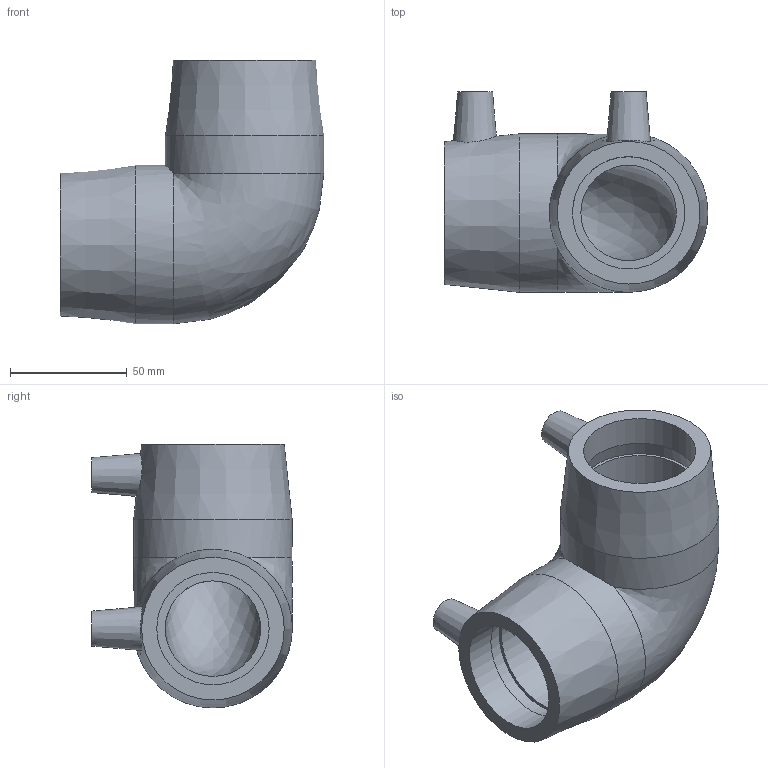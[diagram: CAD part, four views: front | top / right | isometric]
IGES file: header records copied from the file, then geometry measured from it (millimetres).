
Global section: file name: 5905B003015.ipt; native system: Autodesk Inventor 2019; preprocessor: unknown; author: KIM; date: 20210830.100957; units: inch
Bounding box: 112.86 x 85.72 x 112.86 mm (x, y, z)
Volume: 269676.6 mm3; surface area: 57933.9 mm2
Topology: 1 solids, 1 shells, 30 faces, 68 edges, 46 vertices
Faces by surface type: plane 12, revolution 9, cylinder 4, cone 4, bspline 1
Full cylindrical faces by diameter (mm): 4 x2, 67.818 x2
